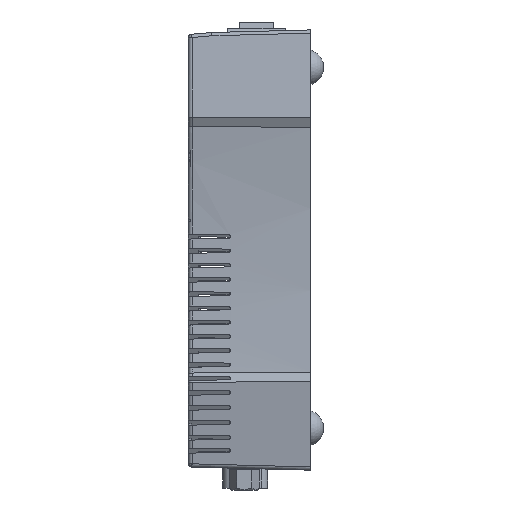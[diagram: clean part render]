
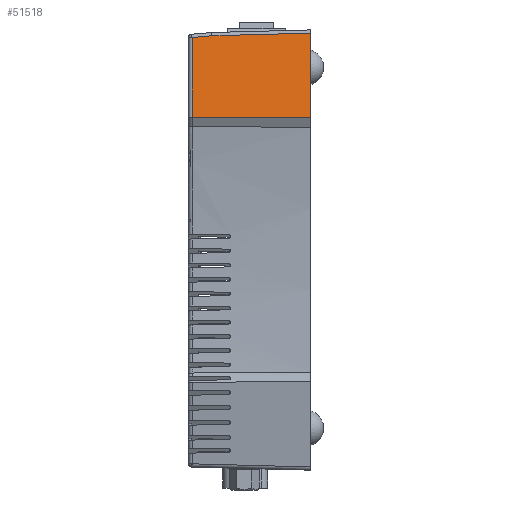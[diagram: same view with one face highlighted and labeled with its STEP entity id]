
A CAD part, left-side view. The second image highlights one B-rep face of the part: STEP entity #51518.
In plain terms, the highlighted planar face has unit normal (-0.99, 0.026, 0.137).
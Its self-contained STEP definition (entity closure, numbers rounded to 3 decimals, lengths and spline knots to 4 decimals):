
#8281=DIRECTION('',(0.137,0.,0.991));
#8282=VECTOR('',#8281,0.9099);
#8283=CARTESIAN_POINT('',(-4.1252,-0.01,1.9662));
#8284=LINE('',#8283,#8282);
#14534=DIRECTION('',(0.014,0.996,-0.087));
#14535=VECTOR('',#14534,0.2131);
#14536=CARTESIAN_POINT('',(-3.9764,1.0388,
2.84));
#14537=LINE('',#14536,#14535);
#14570=DIRECTION('',(-0.027,-1.,-0.005));
#14571=VECTOR('',#14570,1.2615);
#14572=CARTESIAN_POINT('',(-4.0911,1.251,
1.972));
#14573=LINE('',#14572,#14571);
#14583=DIRECTION('',(0.137,0.,0.991));
#14584=VECTOR('',#14583,0.8576);
#14585=CARTESIAN_POINT('',(-4.0911,1.251,
1.972));
#14586=LINE('',#14585,#14584);
#14661=CARTESIAN_POINT('',(-4.0003,-0.01,2.8675));
#14663=DIRECTION('',(-0.023,-0.999,0.026));
#14664=VECTOR('',#14663,1.0494);
#14665=CARTESIAN_POINT('',(-3.9764,1.0388,
2.84));
#14666=LINE('',#14665,#14664);
#35177=CARTESIAN_POINT('',(-4.1252,-0.01,1.9662));
#35178=VERTEX_POINT('',#35177);
#35850=CARTESIAN_POINT('',(-4.0911,1.251,
1.972));
#35852=VERTEX_POINT('',#35850);
#35855=CARTESIAN_POINT('',(-3.9734,1.251,
2.8215));
#35856=VERTEX_POINT('',#35855);
#35857=CARTESIAN_POINT('',(-3.9764,1.0388,
2.84));
#35858=VERTEX_POINT('',#35857);
#35865=VERTEX_POINT('',#14661);
#51503=CARTESIAN_POINT('',(-4.1063,1.29,1.8541));
#51504=DIRECTION('',(0.99,-0.026,-0.137));
#51505=DIRECTION('',(-0.137,0.,-0.991));
#51506=AXIS2_PLACEMENT_3D('',#51503,#51504,#51505);
#51507=PLANE('',#51506);
#51509=ORIENTED_EDGE('',*,*,#51508,.T.);
#51510=ORIENTED_EDGE('',*,*,#51493,.F.);
#51512=ORIENTED_EDGE('',*,*,#51511,.T.);
#51513=ORIENTED_EDGE('',*,*,#46529,.F.);
#51515=ORIENTED_EDGE('',*,*,#51514,.F.);
#51516=EDGE_LOOP('',(#51509,#51510,#51512,#51513,#51515));
#51517=FACE_OUTER_BOUND('',#51516,.F.);
#51518=ADVANCED_FACE('',(#51517),#51507,.F.);
#46529=EDGE_CURVE('',#35178,#35865,#8284,.T.);
#51493=EDGE_CURVE('',#35858,#35856,#14537,.T.);
#51508=EDGE_CURVE('',#35852,#35856,#14586,.T.);
#51511=EDGE_CURVE('',#35858,#35865,#14666,.T.);
#51514=EDGE_CURVE('',#35852,#35178,#14573,.T.);
